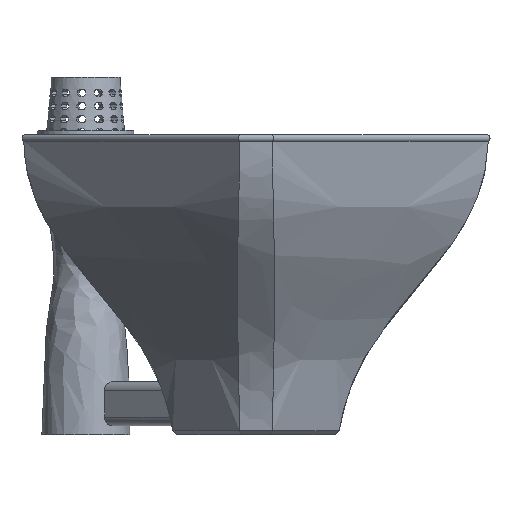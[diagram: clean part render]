
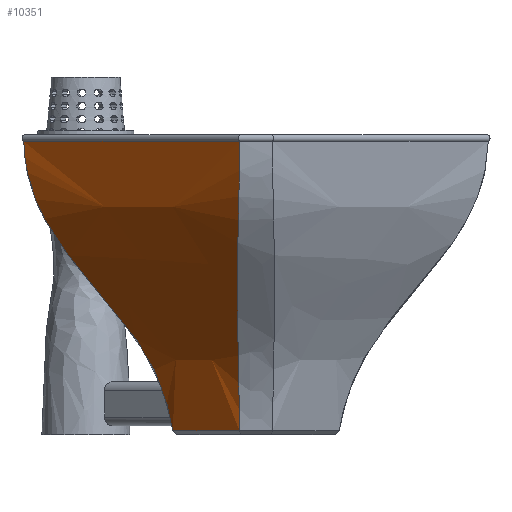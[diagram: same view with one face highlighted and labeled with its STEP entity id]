
A CAD part, front view. The second image highlights one B-rep face of the part: STEP entity #10351.
In plain terms, the highlighted free-form (B-spline) face has degree [3, 3] with [4, 6] control points.
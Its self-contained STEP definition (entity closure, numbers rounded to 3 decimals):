
#374=B_SPLINE_SURFACE_WITH_KNOTS('',3,3,((#19919,#19920,#19921,#19922,#19923,
#19924),(#19925,#19926,#19927,#19928,#19929,#19930),(#19931,#19932,#19933,
#19934,#19935,#19936),(#19937,#19938,#19939,#19940,#19941,#19942)),
 .UNSPECIFIED.,.F.,.F.,.F.,(4,4),(4,2,4),(0.067,0.933),
(0.022,0.239,0.987),.UNSPECIFIED.);
#1300=FACE_OUTER_BOUND('',#1912,.T.);
#1912=EDGE_LOOP('',(#9504,#9505,#9506,#9507));
#2046=B_SPLINE_CURVE_WITH_KNOTS('',3,(#19076,#19077,#19078,#19079),
 .UNSPECIFIED.,.F.,.F.,(4,4),(-10.516,-0.099),
 .UNSPECIFIED.);
#2088=B_SPLINE_CURVE_WITH_KNOTS('',3,(#19889,#19890,#19891,#19892,#19893,
#19894,#19895,#19896,#19897,#19898,#19899,#19900,#19901,#19902,#19903,#19904),
 .UNSPECIFIED.,.F.,.F.,(4,1,1,1,1,3,2,1,1,1,4),(-0.985,-0.879,
-0.772,-0.559,-0.346,-0.239,
-0.217,-0.136,-0.096,-0.055,
-0.015),.UNSPECIFIED.);
#2092=B_SPLINE_CURVE_WITH_KNOTS('',3,(#19944,#19945,#19946,#19947,#19948,
#19949,#19950,#19951,#19952,#19953,#19954,#19955,#19956,#19957,#19958,#19959),
 .UNSPECIFIED.,.F.,.F.,(4,1,1,1,2,3,1,1,1,1,4),(0.015,0.055,
0.096,0.136,0.217,0.239,
0.346,0.559,0.772,0.879,
0.985),.UNSPECIFIED.);
#2093=B_SPLINE_CURVE_WITH_KNOTS('',3,(#19960,#19961,#19962,#19963),
 .UNSPECIFIED.,.F.,.F.,(4,4),(-4.013,-0.796),
 .UNSPECIFIED.);
#4958=VERTEX_POINT('',#19070);
#4959=VERTEX_POINT('',#19075);
#4998=VERTEX_POINT('',#19888);
#5001=VERTEX_POINT('',#19943);
#6477=EDGE_CURVE('',#4959,#4958,#2046,.T.);
#6529=EDGE_CURVE('',#4959,#4998,#2088,.T.);
#6533=EDGE_CURVE('',#5001,#4958,#2092,.T.);
#6534=EDGE_CURVE('',#4998,#5001,#2093,.T.);
#9504=ORIENTED_EDGE('',*,*,#6477,.T.);
#9505=ORIENTED_EDGE('',*,*,#6533,.F.);
#9506=ORIENTED_EDGE('',*,*,#6534,.F.);
#9507=ORIENTED_EDGE('',*,*,#6529,.F.);
#10351=ADVANCED_FACE('',(#1300),#374,.T.);
#19070=CARTESIAN_POINT('',(-85.255,0.28,100.137));
#19075=CARTESIAN_POINT('',(-11.596,-73.379,100.137));
#19076=CARTESIAN_POINT('Ctrl Pts',(-11.596,-73.379,
100.137));
#19077=CARTESIAN_POINT('Ctrl Pts',(-36.149,-48.826,
100.137));
#19078=CARTESIAN_POINT('Ctrl Pts',(-60.702,-24.273,
100.137));
#19079=CARTESIAN_POINT('Ctrl Pts',(-85.255,0.28,
100.137));
#19888=CARTESIAN_POINT('',(-11.609,-22.481,1.349));
#19889=CARTESIAN_POINT('Ctrl Pts',(-11.596,-73.379,
100.137));
#19890=CARTESIAN_POINT('Ctrl Pts',(-11.601,-73.254,
95.694));
#19891=CARTESIAN_POINT('Ctrl Pts',(-11.653,-72.113,
87.643));
#19892=CARTESIAN_POINT('Ctrl Pts',(-11.927,-67.112,73.662));
#19893=CARTESIAN_POINT('Ctrl Pts',(-12.344,-56.312,
58.155));
#19894=CARTESIAN_POINT('Ctrl Pts',(-12.306,-42.338,42.801));
#19895=CARTESIAN_POINT('Ctrl Pts',(-12.103,-34.517,
32.037));
#19896=CARTESIAN_POINT('Ctrl Pts',(-12.03,-32.105,
28.15));
#19897=CARTESIAN_POINT('Ctrl Pts',(-12.014,-31.572,
27.29));
#19898=CARTESIAN_POINT('Ctrl Pts',(-11.987,-31.05,
26.405));
#19899=CARTESIAN_POINT('Ctrl Pts',(-11.841,-28.685,22.17));
#19900=CARTESIAN_POINT('Ctrl Pts',(-11.771,-26.393,16.648));
#19901=CARTESIAN_POINT('Ctrl Pts',(-11.701,-24.203,
9.729));
#19902=CARTESIAN_POINT('Ctrl Pts',(-11.659,-23.043,
5.085));
#19903=CARTESIAN_POINT('Ctrl Pts',(-11.626,-22.6,
2.546));
#19904=CARTESIAN_POINT('Ctrl Pts',(-11.609,-22.481,1.349));
#19919=CARTESIAN_POINT('Ctrl Pts',(-37.758,3.668,1.349));
#19920=CARTESIAN_POINT('Ctrl Pts',(-38.298,3.63,6.436));
#19921=CARTESIAN_POINT('Ctrl Pts',(-41.407,3.408,17.93));
#19922=CARTESIAN_POINT('Ctrl Pts',(-60.092,2.075,51.599));
#19923=CARTESIAN_POINT('Ctrl Pts',(-84.398,0.341,
66.086));
#19924=CARTESIAN_POINT('Ctrl Pts',(-85.255,0.28,
100.137));
#19925=CARTESIAN_POINT('Ctrl Pts',(-27.908,-6.182,
1.349));
#19926=CARTESIAN_POINT('Ctrl Pts',(-28.281,-6.388,6.436));
#19927=CARTESIAN_POINT('Ctrl Pts',(-30.427,-7.572,
17.93));
#19928=CARTESIAN_POINT('Ctrl Pts',(-43.328,-14.689,
51.599));
#19929=CARTESIAN_POINT('Ctrl Pts',(-60.11,-23.947,
66.086));
#19930=CARTESIAN_POINT('Ctrl Pts',(-60.702,-24.273,
100.137));
#19931=CARTESIAN_POINT('Ctrl Pts',(-18.058,-16.032,
1.349));
#19932=CARTESIAN_POINT('Ctrl Pts',(-18.264,-16.405,
6.436));
#19933=CARTESIAN_POINT('Ctrl Pts',(-19.448,-18.551,
17.93));
#19934=CARTESIAN_POINT('Ctrl Pts',(-26.565,-31.452,
51.599));
#19935=CARTESIAN_POINT('Ctrl Pts',(-35.822,-48.234,
66.086));
#19936=CARTESIAN_POINT('Ctrl Pts',(-36.149,-48.826,100.137));
#19937=CARTESIAN_POINT('Ctrl Pts',(-8.208,-25.882,1.349));
#19938=CARTESIAN_POINT('Ctrl Pts',(-8.246,-26.422,
6.436));
#19939=CARTESIAN_POINT('Ctrl Pts',(-8.468,-29.531,
17.93));
#19940=CARTESIAN_POINT('Ctrl Pts',(-9.801,-48.216,
51.599));
#19941=CARTESIAN_POINT('Ctrl Pts',(-11.535,-72.522,
66.086));
#19942=CARTESIAN_POINT('Ctrl Pts',(-11.596,-73.379,
100.137));
#19943=CARTESIAN_POINT('',(-34.357,0.267,1.349));
#19944=CARTESIAN_POINT('Ctrl Pts',(-34.357,0.267,
1.349));
#19945=CARTESIAN_POINT('Ctrl Pts',(-34.476,0.25,
2.546));
#19946=CARTESIAN_POINT('Ctrl Pts',(-34.919,0.216,
5.085));
#19947=CARTESIAN_POINT('Ctrl Pts',(-36.079,0.174,
9.73));
#19948=CARTESIAN_POINT('Ctrl Pts',(-38.269,0.105,16.648));
#19949=CARTESIAN_POINT('Ctrl Pts',(-40.561,0.035,
22.17));
#19950=CARTESIAN_POINT('Ctrl Pts',(-42.926,-0.111,
26.405));
#19951=CARTESIAN_POINT('Ctrl Pts',(-43.447,-0.138,
27.29));
#19952=CARTESIAN_POINT('Ctrl Pts',(-43.981,-0.154,
28.15));
#19953=CARTESIAN_POINT('Ctrl Pts',(-46.392,-0.228,
32.037));
#19954=CARTESIAN_POINT('Ctrl Pts',(-54.214,-0.43,
42.801));
#19955=CARTESIAN_POINT('Ctrl Pts',(-68.188,-0.468,
58.155));
#19956=CARTESIAN_POINT('Ctrl Pts',(-78.987,-0.051,
73.662));
#19957=CARTESIAN_POINT('Ctrl Pts',(-83.989,0.223,
87.643));
#19958=CARTESIAN_POINT('Ctrl Pts',(-85.13,0.274,
95.694));
#19959=CARTESIAN_POINT('Ctrl Pts',(-85.255,0.28,
100.137));
#19960=CARTESIAN_POINT('Ctrl Pts',(-11.609,-22.481,
1.349));
#19961=CARTESIAN_POINT('Ctrl Pts',(-19.191,-14.898,
1.349));
#19962=CARTESIAN_POINT('Ctrl Pts',(-26.774,-7.316,1.349));
#19963=CARTESIAN_POINT('Ctrl Pts',(-34.357,0.267,
1.349));
